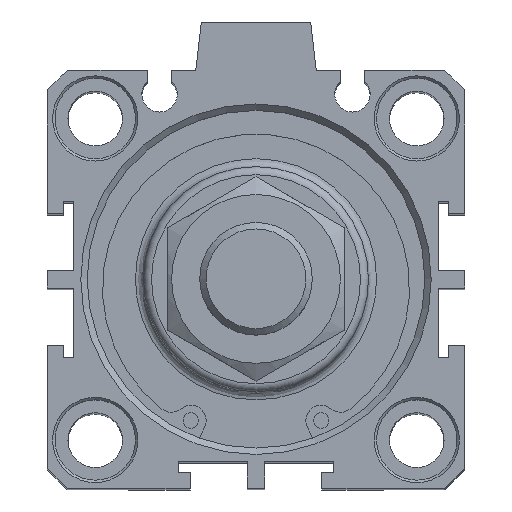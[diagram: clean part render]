
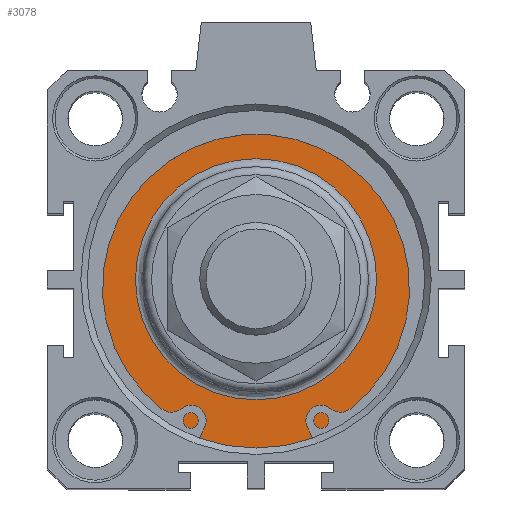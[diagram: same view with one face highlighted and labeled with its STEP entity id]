
A CAD part, top view. The second image highlights one B-rep face of the part: STEP entity #3078.
In plain terms, the highlighted planar face has unit normal (0, 0, 1).
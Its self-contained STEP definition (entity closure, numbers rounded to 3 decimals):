
#3027=CARTESIAN_POINT('',(-1.555,16.077,122.4));
#3028=VERTEX_POINT('',#3027);
#3029=CARTESIAN_POINT('',(-1.555,1.077,122.4));
#3030=DIRECTION('',(0.0,0.0,1.0));
#3031=DIRECTION('',(0.0,-1.0,0.0));
#3032=AXIS2_PLACEMENT_3D('',#3029,#3030,#3031);
#3033=CIRCLE('',#3032,15.);
#3034=EDGE_CURVE('',#3028,#3028,#3033,.T.);
#3059=CARTESIAN_POINT('',(-1.555,18.577,122.4));
#3060=DIRECTION('',(0.0,0.0,1.0));
#3061=DIRECTION('',(1.0,0.0,0.0));
#3062=AXIS2_PLACEMENT_3D('',#3059,#3060,#3061);
#3063=PLANE('',#3062);
#3064=CARTESIAN_POINT('',(-1.555,22.077,122.4));
#3065=VERTEX_POINT('',#3064);
#3066=CARTESIAN_POINT('',(-1.555,1.077,122.4));
#3067=DIRECTION('',(0.0,0.0,-1.0));
#3068=DIRECTION('',(0.0,1.0,0.0));
#3069=AXIS2_PLACEMENT_3D('',#3066,#3067,#3068);
#3070=CIRCLE('',#3069,21.);
#3071=EDGE_CURVE('',#3065,#3065,#3070,.T.);
#3072=ORIENTED_EDGE('',*,*,#3071,.F.);
#3073=EDGE_LOOP('',(#3072));
#3074=FACE_OUTER_BOUND('',#3073,.T.);
#3075=ORIENTED_EDGE('',*,*,#3034,.F.);
#3076=EDGE_LOOP('',(#3075));
#3077=FACE_BOUND('',#3076,.T.);
#3078=ADVANCED_FACE('',(#3074,#3077),#3063,.T.);
